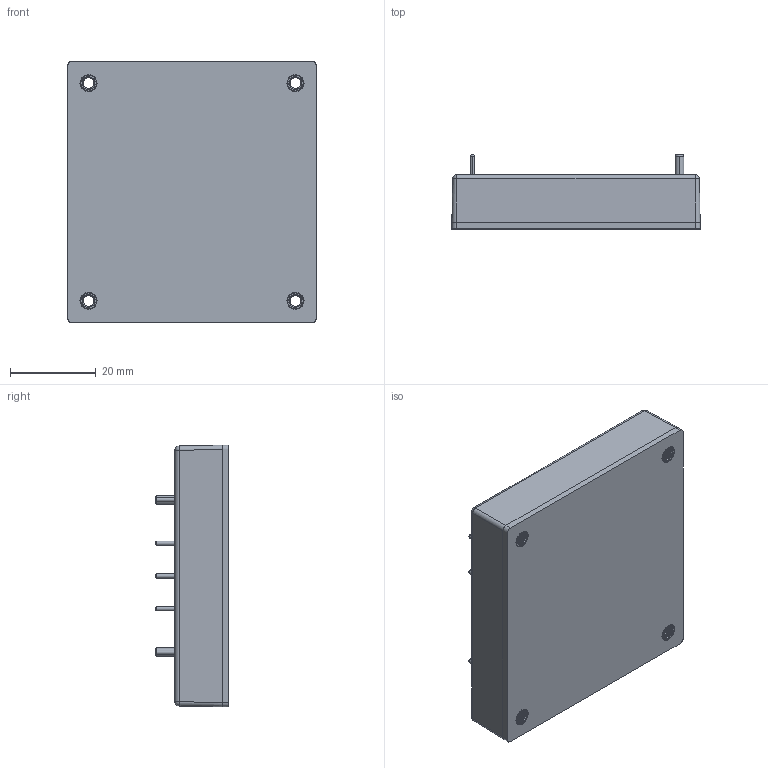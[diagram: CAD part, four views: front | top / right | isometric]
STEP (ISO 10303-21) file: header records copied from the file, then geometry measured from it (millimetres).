
FILE_DESCRIPTION (( 'STEP AP203' ), '1' );
FILE_NAME ('CHB300W-110S-1121025.STEP', '2023-10-25T07:52:44', ( 'cincon' ), ( '' ), 'SwSTEP 2.0', 'SolidWorks 2020', '' );
FILE_SCHEMA (( 'CONFIG_CONTROL_DESIGN' ));
Length unit declared in the file: millimetre
Products named in the file (1): CHB300W-110S-1121025
Bounding box: 57.9 x 17.2 x 61 mm (x, y, z)
Volume: 42396.9 mm3; surface area: 16514.6 mm2
Topology: 1 solids, 10 shells, 1234 faces, 3355 edges, 2210 vertices
Faces by surface type: plane 587, cylinder 357, cone 152, bspline 134, sphere 4
Entity records: 55376 total; most frequent: CARTESIAN_POINT 26088, ORIENTED_EDGE 6710, DIRECTION 5294, EDGE_CURVE 3355, VERTEX_POINT 2210, VECTOR 1890, LINE 1890, AXIS2_PLACEMENT_3D 1702
